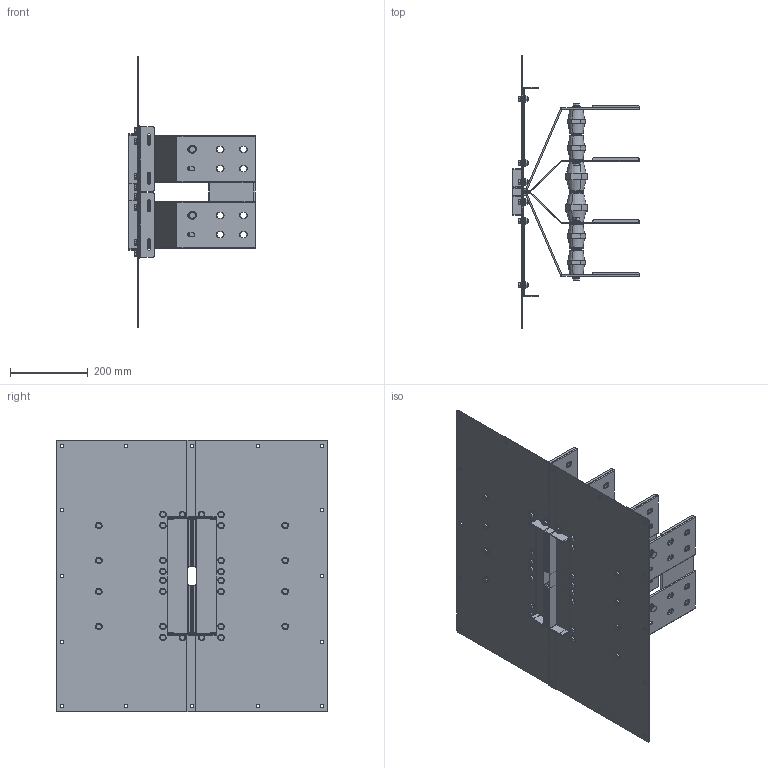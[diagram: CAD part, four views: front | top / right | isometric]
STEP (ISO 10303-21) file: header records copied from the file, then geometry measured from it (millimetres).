
FILE_DESCRIPTION(('CATIA V5 STEP','CAx-IF Rec.Pracs.--- Model Styling and Organization---1.5--- 2016-08-15','CAx-IF Rec.Pracs.---Supplemental Geometry---1.0---2011-11-01','CAx-IF Rec.Pracs.--- Composite Materials ---1.1---2010-07-15'),'2;1');
FILE_NAME('K:\COSCN 2011\32372311_RiduzioneSezioniBarre\03_Studio\__Modelli semplificati\XCP_UB semplificati per studi\XCP-S_UB_4C_Pe_CRT_Assieme\Cu\XCP-S_UB_4C_Pe_D_Assieme - 2500A Cu_CRT\XCP-S_UB_4C_Pe_D_Assieme - 2500A Cu_CRT.stp','2025-05-12T13:14:32+00:00',('Utente Bticino'),('Bticino S.p.A.'),'CATIA Version 5-6 Release 2020 SP5','CATIA V5 STEP AP214 v2','none');
FILE_SCHEMA(('AUTOMOTIVE_DESIGN { 1 0 10303 214 1 1 1 1 }'));
Length unit declared in the file: millimetre
Products named in the file (30): XCP-S_UB_4C_Pe_D_Assieme - 2500A Cu_CRT; XCP-S_UB_4C_Pe_D_PaccoBarre_2500A Cu_CRT; XCP-S_UB_4C_Pe_D_Lamiere_2500A Cu_CRT; XCP-S_UB_4C_Pe_D_PaccoBarre_2500A Cu_CRT_1; XCP-S_UB_4C_Pe_D - 2500A Cu_Bandelle parallelo_CRT; 130006; 130184; 00750033 - RONDELLA PIANA 4.8 D.12 UNI 6592 ZB; Ass_M10x25.1; 00740025 M10x25 UNI5739; Rondella spac M10 UNI 1751; 00750005; 130006_1; 00750033 - RONDELLA PIANA 4.8 D.12 UNI 6592 ZB_1; 130184_1; 130006_2; 00750033 - RONDELLA PIANA 4.8 D.12 UNI 6592 ZB_2; 130006_3; 130006_4; 130184_2; 00750033 - RONDELLA PIANA 4.8 D.12 UNI 6592 ZB_3; 130006_5; 00750033 - RONDELLA PIANA 4.8 D.12 UNI 6592 ZB_4; 130184_3; 130006_6; 00750033 - RONDELLA PIANA 4.8 D.12 UNI 6592 ZB_5; 130006_7; Ass Vite+dado M8; Steel hex flanged SCREW M12x16; Steel hex flanged NUT M8
Assembly tree (67 placements, depth 3):
  XCP-S_UB_4C_Pe_D_Assieme - 2500A Cu_CRT
    XCP-S_UB_4C_Pe_D_PaccoBarre_2500A Cu_CRT
    XCP-S_UB_4C_Pe_D_Lamiere_2500A Cu_CRT
    XCP-S_UB_4C_Pe_D_PaccoBarre_2500A Cu_CRT_1
    XCP-S_UB_4C_Pe_D - 2500A Cu_Bandelle parallelo_CRT
    130006
    130184
    00750033 - RONDELLA PIANA 4.8 D.12 UNI 6592 ZB
    Ass_M10x25.1  x12
      00740025 M10x25 UNI5739
      Rondella spac M10 UNI 1751
      00750005
    130006_1
    00750033 - RONDELLA PIANA 4.8 D.12 UNI 6592 ZB_1
    130184_1
    130006_2
    00750033 - RONDELLA PIANA 4.8 D.12 UNI 6592 ZB_2
    130006_3
    130006_4
    130184_2
    00750033 - RONDELLA PIANA 4.8 D.12 UNI 6592 ZB_3
    130006_5
    00750033 - RONDELLA PIANA 4.8 D.12 UNI 6592 ZB_4
    130184_3
    130006_6
    00750033 - RONDELLA PIANA 4.8 D.12 UNI 6592 ZB_5
    130006_7
    Ass Vite+dado M8  x28
      Steel hex flanged SCREW M12x16
      Steel hex flanged NUT M8
Bounding box: 325 x 700 x 700 mm (x, y, z)
Volume: 4711030.4 mm3; surface area: 2836869.4 mm2
Topology: 136 solids, 136 shells, 3072 faces, 7360 edges, 4628 vertices
Faces by surface type: plane 1360, cylinder 904, cone 368, bspline 320, torus 120
Entity records: 41893 total; most frequent: CARTESIAN_POINT 8496, ORIENTED_EDGE 7184, DIRECTION 5518, EDGE_CURVE 3592, AXIS2_PLACEMENT_3D 2384, VERTEX_POINT 2296, VECTOR 2116, LINE 2116
